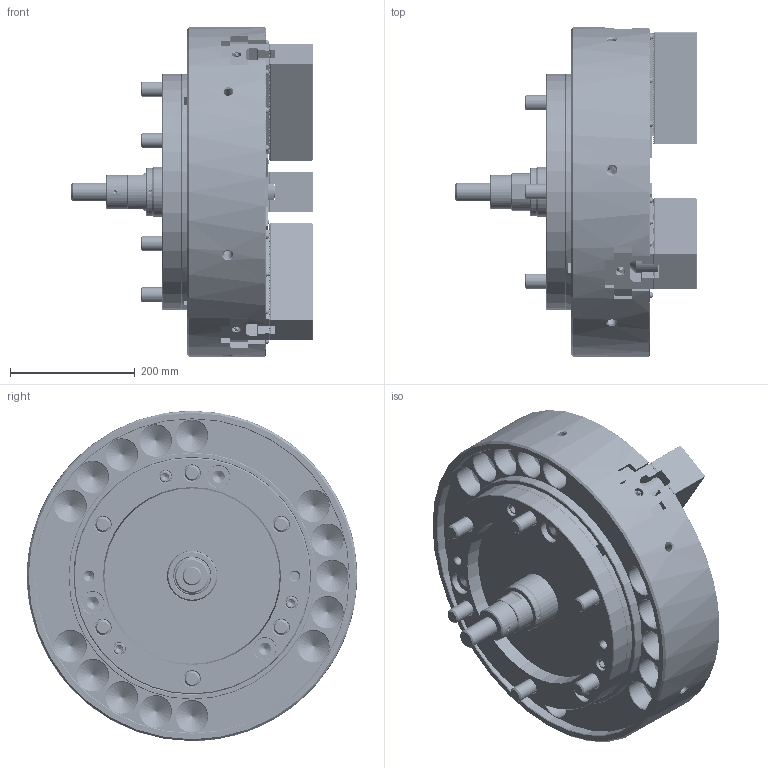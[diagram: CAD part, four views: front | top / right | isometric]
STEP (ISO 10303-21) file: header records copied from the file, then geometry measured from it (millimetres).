
FILE_DESCRIPTION (( 'STEP AP214' ), '1' );
FILE_NAME ('DT1_NV21C15_OUTSIDE_VIEW_OC.STEP', '2026-03-24T04:47:10', ( '' ), ( '' ), 'SwSTEP 2.0', 'SolidWorks 2022', '' );
FILE_SCHEMA (( 'AUTOMOTIVE_DESIGN' ));
Length unit declared in the file: millimetre
Products named in the file (19): DT1_NV21C15_BASE^DT1_NV21C1500; DT1_NV21C15_S24^DT1_NV21C1500_円筒用; DT1_NV21C15_COVERFOOTER^DT1_NV21C1500; DT1_NV21C15_CAP^DT1_NV21C1500; DT1_NV21C15_ORING^DT1_NV21C1500; DT1_NV21C15_M20x60^DT1_NV21C1500; DT1_NV21C15_TNUT^DT1_NV21C1500; DT1_NV21C15_COVER^DT1_NV21C1500; DT1_NV21C15_S38^DT1_NV21C1500_円筒用; DT1_NV21C15_M24x170^DT1_NV21C1500; Copy of 0030112055^DT1_NV21C1500; Copy of 61P321208^DT1_NV21C1500; DT1_NV21C15_SOFTJAW^DT1_NV21C1500; DT1_NV21C15_DN^DT1_NV21C1500; DT1_NV21C15_P80^DT1_NV21C1500_円筒用; DT1_NV21C15_M6x12^DT1_NV21C1500; DT1_NV21C15_DRAWSCREW^DT1_NV21C1500; DT1_NV21C15_OUTSIDE_VIEW_OC; DT1_NV21C15_BP^DT1_NV21C1500
Assembly tree (49 placements, depth 2):
  DT1_NV21C15_OUTSIDE_VIEW_OC
    DT1_NV21C15_SOFTJAW^DT1_NV21C1500  x3
    DT1_NV21C15_TNUT^DT1_NV21C1500  x6
    DT1_NV21C15_COVER^DT1_NV21C1500
    DT1_NV21C15_DRAWSCREW^DT1_NV21C1500
    Copy of 61P321208^DT1_NV21C1500
    DT1_NV21C15_COVERFOOTER^DT1_NV21C1500
    DT1_NV21C15_DN^DT1_NV21C1500
    DT1_NV21C15_BP^DT1_NV21C1500
    DT1_NV21C15_BASE^DT1_NV21C1500
    DT1_NV21C15_M6x12^DT1_NV21C1500  x6
    Copy of 0030112055^DT1_NV21C1500  x3
    DT1_NV21C15_M20x60^DT1_NV21C1500  x6
    DT1_NV21C15_M24x170^DT1_NV21C1500  x6
    DT1_NV21C15_S24^DT1_NV21C1500_円筒用
    DT1_NV21C15_S38^DT1_NV21C1500_円筒用
    DT1_NV21C15_P80^DT1_NV21C1500_円筒用
    DT1_NV21C15_CAP^DT1_NV21C1500  x6
    DT1_NV21C15_ORING^DT1_NV21C1500  x3
Bounding box: 387 x 530 x 530 mm (x, y, z)
Volume: 30386047.8 mm3; surface area: 2128127.7 mm2
Topology: 49 solids, 103 shells, 9774 faces, 27031 edges, 17579 vertices
Faces by surface type: plane 5701, cylinder 1919, bspline 1031, cone 963, torus 154, sphere 6
Entity records: 278018 total; most frequent: CARTESIAN_POINT 88988, ORIENTED_EDGE 42222, DIRECTION 33974, EDGE_CURVE 21111, LINE 14700, VECTOR 14700, VERTEX_POINT 13833, AXIS2_PLACEMENT_3D 9637
